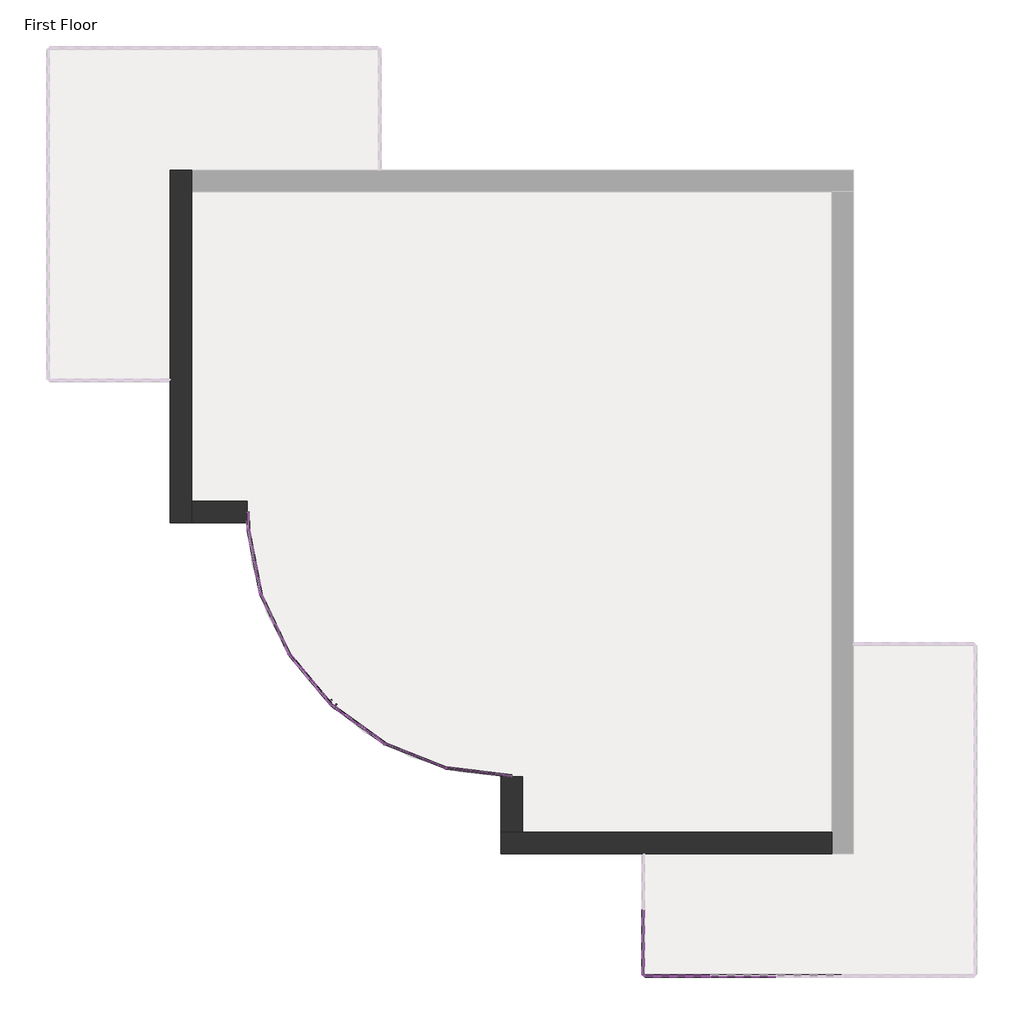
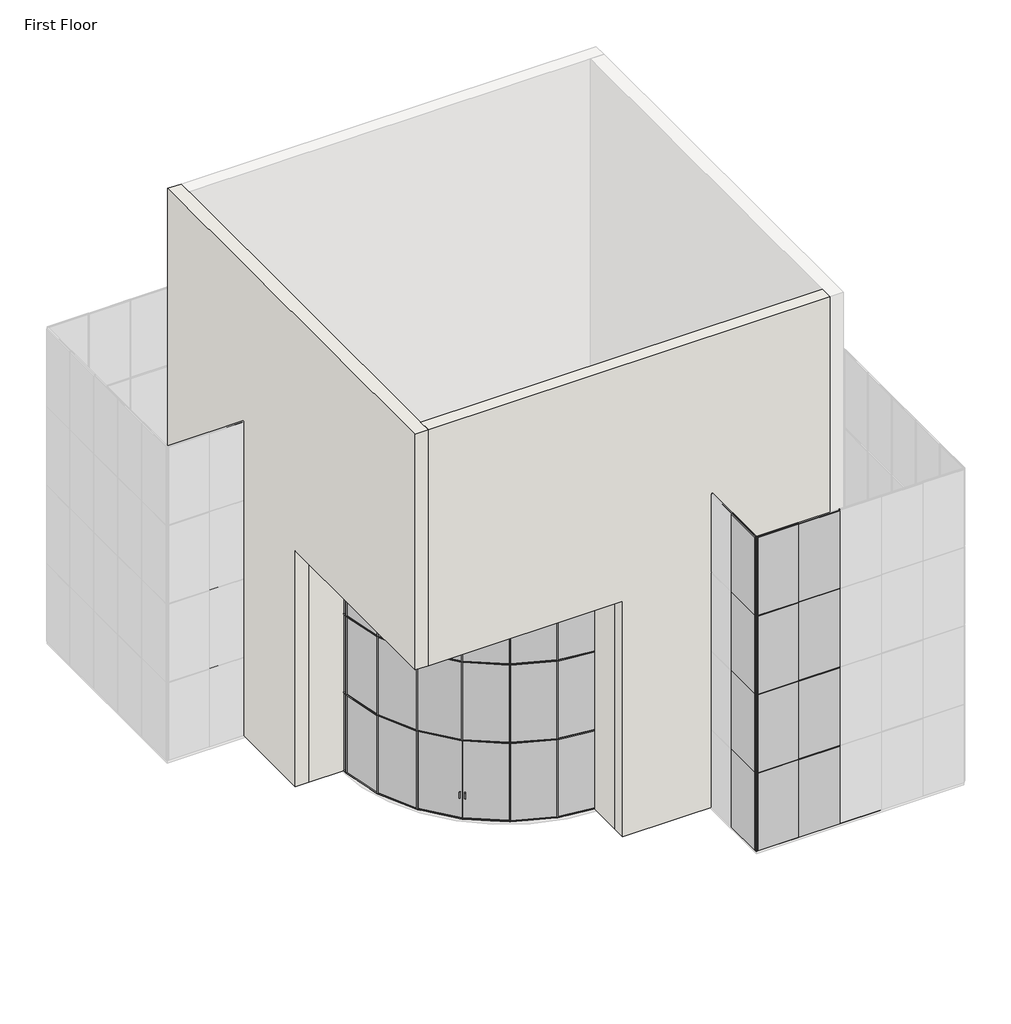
# One storey, part 1 of 4: 72 members, 33 plates, 4 walls.
"""IFC4 building model written with IfcOpenShell, lengths in millimetres."""

from ifc_helpers import new_model, si_unit, origin, origin_with_axes, place, context, project, spatial, polyline, outline, extrude, faceted_brep, transform, mapped, element, save
from components import member_5e617a80, member_74941792, member_cbdb9076, member_7e523723, member_9fd3d903, member_6604d1e0, member_427ea564, member_dc7d8ed0, member_50c0a876, member_f831c101, member_4ce38149, member_fef64646, member_b90b2622, member_80103e86, member_985bfe06, member_dfe62b7a, member_7f371842, curtain_wall_sgl_glass_curtain_wall_sgl_glass_fca7f741, curtain_wall_sgl_glass_curtain_wall_sgl_glass_da5bb70a, system_panel_glazed_9b7d687a, system_panel_glazed_9a901b4a, system_panel_glazed_2d5e1d3d, system_panel_glazed_37964ea6, system_panel_glazed_64ac1428, system_panel_glazed_4997d7a8, system_panel_glazed_95735f45, system_panel_glazed_2762a518, system_panel_glazed_280dc3c4, system_panel_glazed_176abec3, system_panel_glazed_46fdc408

model = new_model("IFC4")

# Units and contexts
model_context = context("Model", 3, world=origin())
ifc_project = project(units=[si_unit("LENGTHUNIT", "METRE", prefix="MILLI")], contexts=[model_context])

# Site, building, storey
site = spatial("IfcSite", under=ifc_project)
building = spatial("IfcBuilding", under=site)
storey = spatial("IfcBuildingStorey", under=building, Name="First Floor", Elevation=0.0)

# Members
placement = place(None, origin())
member_shape = member_5e617a80(model_context)
element("IfcMember", 1, ObjectType="Rectangular Mullion : 1\" Square", at=placement, inside=storey, context=model_context, shape_type="MappedRepresentation", body=[
    mapped(member_shape, transform((2088.1943843, -11353.9860776, 3048.0), x_axis=(0.0, 0.0, 1.0), y_axis=(0.0, -1.0, 0.0), z_axis=(1.0, 0.0, 0.0))),
])
element("IfcMember", 2, ObjectType="Rectangular Mullion : 1\" Square", at=placement, inside=storey, context=model_context, shape_type="MappedRepresentation", body=[
    mapped(member_shape, transform((2088.1943843, -11353.9860776, 6096.0), x_axis=(0.0, 0.0, 1.0), y_axis=(0.0, -1.0, 0.0), z_axis=(1.0, 0.0, 0.0))),
])
element("IfcMember", 3, ObjectType="Rectangular Mullion : 1\" Square", at=placement, inside=storey, context=model_context, shape_type="MappedRepresentation", body=[
    mapped(member_shape, transform((2088.1943843, -11353.9860776, 9144.0), x_axis=(0.0, 0.0, 1.0), y_axis=(0.0, -1.0, 0.0), z_axis=(1.0, 0.0, 0.0))),
])
member_2_shape = member_74941792(model_context)
element("IfcMember", 4, ObjectType="Rectangular Mullion : 1\" Square", at=placement, inside=storey, context=model_context, shape_type="MappedRepresentation", body=[
    mapped(member_2_shape, transform((2088.1943843, -11353.9860776, 12192.0), x_axis=(0.0, 0.0, 1.0), y_axis=(0.0, -1.0, 0.0), z_axis=(1.0, 0.0, 0.0))),
])
member_3_shape = member_cbdb9076(model_context)
element("IfcMember", 5, ObjectType="Rectangular Mullion : 1\" Square", at=placement, inside=storey, context=model_context, shape_type="MappedRepresentation", body=[
    mapped(member_3_shape, transform((576.8943843, -11350.8110776, 3048.0), x_axis=(0.0, -1.0, 0.0), y_axis=(-1.0, 0.0, 0.0), z_axis=(0.0, 0.0, -1.0))),
])
element("IfcMember", 6, ObjectType="Rectangular Mullion : 1\" Square", at=placement, inside=storey, context=model_context, shape_type="MappedRepresentation", body=[
    mapped(member_3_shape, transform((576.8943843, -11350.8110776, 6096.0), x_axis=(0.0, -1.0, 0.0), y_axis=(-1.0, 0.0, 0.0), z_axis=(0.0, 0.0, -1.0))),
])
element("IfcMember", 7, ObjectType="Rectangular Mullion : 1\" Square", at=placement, inside=storey, context=model_context, shape_type="MappedRepresentation", body=[
    mapped(member_3_shape, transform((2100.8943843, -11353.9860776, 3048.0), x_axis=(1.0, 0.0, 0.0), y_axis=(0.0, -1.0, 0.0), z_axis=(0.0, 0.0, -1.0))),
])
element("IfcMember", 8, ObjectType="Rectangular Mullion : 1\" Square", at=placement, inside=storey, context=model_context, shape_type="MappedRepresentation", body=[
    mapped(member_3_shape, transform((2100.8943843, -11353.9860776, 6096.0), x_axis=(1.0, 0.0, 0.0), y_axis=(0.0, -1.0, 0.0), z_axis=(0.0, 0.0, -1.0))),
])
element("IfcMember", 9, ObjectType="Rectangular Mullion : 1\" Square", at=placement, inside=storey, context=model_context, shape_type="MappedRepresentation", body=[
    mapped(member_3_shape, transform((3624.8943843, -11353.9860776, 3048.0), x_axis=(1.0, 0.0, 0.0), y_axis=(0.0, -1.0, 0.0), z_axis=(0.0, 0.0, -1.0))),
])
element("IfcMember", 10, ObjectType="Rectangular Mullion : 1\" Square", at=placement, inside=storey, context=model_context, shape_type="MappedRepresentation", body=[
    mapped(member_3_shape, transform((3624.8943843, -11353.9860776, 6096.0), x_axis=(1.0, 0.0, 0.0), y_axis=(0.0, -1.0, 0.0), z_axis=(0.0, 0.0, -1.0))),
])
element("IfcMember", 11, ObjectType="Rectangular Mullion : 1\" Square", at=placement, inside=storey, context=model_context, shape_type="MappedRepresentation", body=[
    mapped(member_3_shape, transform((-8553.4843812, -1093.2753523, 3048.0), x_axis=(-0.0668125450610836, 0.997765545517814, 0.0), y_axis=(0.9977655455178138, 0.06681254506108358, 0.0), z_axis=(0.0, 0.0, -1.0))),
])
element("IfcMember", 12, ObjectType="Rectangular Mullion : 1\" Square", at=placement, inside=storey, context=model_context, shape_type="MappedRepresentation", body=[
    mapped(member_3_shape, transform((-8262.3863448, -2589.2158368, 3048.0), x_axis=(-0.3122096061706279, 0.9500132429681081, 0.0), y_axis=(0.9500132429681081, 0.3122096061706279, 0.0), z_axis=(0.0, 0.0, -1.0))),
])
element("IfcMember", 13, ObjectType="Rectangular Mullion : 1\" Square", at=placement, inside=storey, context=model_context, shape_type="MappedRepresentation", body=[
    mapped(member_3_shape, transform((-7609.3332629, -3966.2044614, 3048.0), x_axis=(-0.5380935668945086, 0.8428851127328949, 0.0), y_axis=(0.8428851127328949, 0.5380935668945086, 0.0), z_axis=(0.0, 0.0, -1.0))),
])
element("IfcMember", 14, ObjectType="Rectangular Mullion : 1\" Square", at=placement, inside=storey, context=model_context, shape_type="MappedRepresentation", body=[
    mapped(member_3_shape, transform((-5400.6964346, -6031.8923276, 3048.0), x_axis=(-0.8769531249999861, 0.48057592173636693, 0.0), y_axis=(0.48057592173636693, 0.8769531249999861, 0.0), z_axis=(0.0, 0.0, -1.0))),
])
element("IfcMember", 15, ObjectType="Rectangular Mullion : 1\" Square", at=placement, inside=storey, context=model_context, shape_type="MappedRepresentation", body=[
    mapped(member_3_shape, transform((-3983.15249, -6591.4860776, 3048.0), x_axis=(-0.9687499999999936, 0.2480391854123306, 0.0), y_axis=(0.2480391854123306, 0.9687499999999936, 0.0), z_axis=(0.0, 0.0, -1.0))),
])
element("IfcMember", 16, ObjectType="Rectangular Mullion : 1\" Square", at=placement, inside=storey, context=model_context, shape_type="MappedRepresentation", body=[
    mapped(member_3_shape, transform((576.8943843, -11350.8110776, 9144.0), x_axis=(0.0, -1.0, 0.0), y_axis=(-1.0, 0.0, 0.0), z_axis=(0.0, 0.0, -1.0))),
])
element("IfcMember", 17, ObjectType="Rectangular Mullion : 1\" Square", at=placement, inside=storey, context=model_context, shape_type="MappedRepresentation", body=[
    mapped(member_3_shape, transform((2100.8943843, -11353.9860776, 9144.0), x_axis=(1.0, 0.0, 0.0), y_axis=(0.0, -1.0, 0.0), z_axis=(0.0, 0.0, -1.0))),
])
element("IfcMember", 18, ObjectType="Rectangular Mullion : 1\" Square", at=placement, inside=storey, context=model_context, shape_type="MappedRepresentation", body=[
    mapped(member_3_shape, transform((3624.8943843, -11353.9860776, 9144.0), x_axis=(1.0, 0.0, 0.0), y_axis=(0.0, -1.0, 0.0), z_axis=(0.0, 0.0, -1.0))),
])
element("IfcMember", 19, ObjectType="Rectangular Mullion : 1\" Square", at=placement, inside=storey, context=model_context, shape_type="MappedRepresentation", body=[
    mapped(member_3_shape, transform((576.8943843, -11350.8110776, 0.0), x_axis=(0.0, -1.0, 0.0), y_axis=(-1.0, 0.0, 0.0), z_axis=(0.0, 0.0, -1.0))),
])
element("IfcMember", 20, ObjectType="Rectangular Mullion : 1\" Square", at=placement, inside=storey, context=model_context, shape_type="MappedRepresentation", body=[
    mapped(member_3_shape, transform((2100.8943843, -11353.9860776, 0.0), x_axis=(1.0, 0.0, 0.0), y_axis=(0.0, -1.0, 0.0), z_axis=(0.0, 0.0, -1.0))),
])
element("IfcMember", 21, ObjectType="Rectangular Mullion : 1\" Square", at=placement, inside=storey, context=model_context, shape_type="MappedRepresentation", body=[
    mapped(member_3_shape, transform((3624.8943843, -11353.9860776, 0.0), x_axis=(1.0, 0.0, 0.0), y_axis=(0.0, -1.0, 0.0), z_axis=(0.0, 0.0, -1.0))),
])
element("IfcMember", 22, ObjectType="Rectangular Mullion : 1\" Square", at=placement, inside=storey, context=model_context, shape_type="MappedRepresentation", body=[
    mapped(member_3_shape, transform((-8553.4843812, -1093.2753523, 0.0), x_axis=(-0.06681254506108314, 0.9977655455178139, 0.0), y_axis=(0.9977655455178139, 0.06681254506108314, 0.0), z_axis=(0.0, 0.0, -1.0))),
])
element("IfcMember", 23, ObjectType="Rectangular Mullion : 1\" Square", at=placement, inside=storey, context=model_context, shape_type="MappedRepresentation", body=[
    mapped(member_3_shape, transform((-8262.3863448, -2589.2158368, 0.0), x_axis=(-0.3122096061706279, 0.9500132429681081, 0.0), y_axis=(0.9500132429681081, 0.3122096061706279, 0.0), z_axis=(0.0, 0.0, -1.0))),
])
element("IfcMember", 24, ObjectType="Rectangular Mullion : 1\" Square", at=placement, inside=storey, context=model_context, shape_type="MappedRepresentation", body=[
    mapped(member_3_shape, transform((-7609.3332629, -3966.2044614, 0.0), x_axis=(-0.5380935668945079, 0.8428851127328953, 0.0), y_axis=(0.8428851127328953, 0.5380935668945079, 0.0), z_axis=(0.0, 0.0, -1.0))),
])
element("IfcMember", 25, ObjectType="Rectangular Mullion : 1\" Square", at=placement, inside=storey, context=model_context, shape_type="MappedRepresentation", body=[
    mapped(member_3_shape, transform((-5400.6964346, -6031.8923276, 0.0), x_axis=(-0.8769531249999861, 0.48057592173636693, 0.0), y_axis=(0.48057592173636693, 0.8769531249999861, 0.0), z_axis=(0.0, 0.0, -1.0))),
])
element("IfcMember", 26, ObjectType="Rectangular Mullion : 1\" Square", at=placement, inside=storey, context=model_context, shape_type="MappedRepresentation", body=[
    mapped(member_3_shape, transform((-3983.15249, -6591.4860776, 0.0), x_axis=(-0.9687499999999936, 0.2480391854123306, 0.0), y_axis=(0.2480391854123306, 0.9687499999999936, 0.0), z_axis=(0.0, 0.0, -1.0))),
])
element("IfcMember", 27, ObjectType="Rectangular Mullion : 1\" Square", at=placement, inside=storey, context=model_context, shape_type="MappedRepresentation", body=[
    mapped(member_2_shape, transform((602.2943843, -11353.9860776, 0.0), x_axis=(0.0, 0.0, -1.0), y_axis=(0.0, -1.0, 0.0), z_axis=(-1.0, 0.0, 0.0))),
])
member_4_shape = member_7e523723(model_context)
element("IfcMember", 28, ObjectType="Rectangular Mullion : 1\" Square", at=placement, inside=storey, context=model_context, shape_type="MappedRepresentation", body=[
    mapped(member_4_shape, transform((576.8943843, -11353.9860776, 12192.0), x_axis=(-1.0, 0.0, 0.0), y_axis=(0.0, -1.0, 0.0), z_axis=(0.0, 0.0, 1.0))),
])
element("IfcMember", 29, ObjectType="Rectangular Mullion : 1\" Square", at=placement, inside=storey, context=model_context, shape_type="MappedRepresentation", body=[
    mapped(member_4_shape, transform((576.8943843, -11353.9860776, 3048.0), x_axis=(-1.0, 0.0, 0.0), y_axis=(0.0, -1.0, 0.0), z_axis=(0.0, 0.0, 1.0))),
])
element("IfcMember", 30, ObjectType="Rectangular Mullion : 1\" Square", at=placement, inside=storey, context=model_context, shape_type="MappedRepresentation", body=[
    mapped(member_4_shape, transform((576.8943843, -11353.9860776, 6096.0), x_axis=(-1.0, 0.0, 0.0), y_axis=(0.0, -1.0, 0.0), z_axis=(0.0, 0.0, 1.0))),
])
element("IfcMember", 31, ObjectType="Rectangular Mullion : 1\" Square", at=placement, inside=storey, context=model_context, shape_type="MappedRepresentation", body=[
    mapped(member_4_shape, transform((576.8943843, -11353.9860776, 9144.0), x_axis=(-1.0, 0.0, 0.0), y_axis=(0.0, -1.0, 0.0), z_axis=(0.0, 0.0, 1.0))),
])
member_5_shape = member_9fd3d903(model_context)
element("IfcMember", 32, ObjectType="Rectangular Mullion : 1\" Square", at=placement, inside=storey, context=model_context, shape_type="MappedRepresentation", body=[
    mapped(member_5_shape, transform((576.8943843, -11338.1110776, 3048.0), x_axis=(0.0, 0.0, 1.0), y_axis=(-1.0, 0.0, 0.0), z_axis=(0.0, -1.0, 0.0))),
])
element("IfcMember", 33, ObjectType="Rectangular Mullion : 1\" Square", at=placement, inside=storey, context=model_context, shape_type="MappedRepresentation", body=[
    mapped(member_5_shape, transform((576.8943843, -11338.1110776, 6096.0), x_axis=(0.0, 0.0, 1.0), y_axis=(-1.0, 0.0, 0.0), z_axis=(0.0, -1.0, 0.0))),
])
element("IfcMember", 34, ObjectType="Rectangular Mullion : 1\" Square", at=placement, inside=storey, context=model_context, shape_type="MappedRepresentation", body=[
    mapped(member_5_shape, transform((576.8943843, -11338.1110776, 9144.0), x_axis=(0.0, 0.0, 1.0), y_axis=(-1.0, 0.0, 0.0), z_axis=(0.0, -1.0, 0.0))),
])
element("IfcMember", 35, ObjectType="Rectangular Mullion : 1\" Square", at=placement, inside=storey, context=model_context, shape_type="MappedRepresentation", body=[
    mapped(member_5_shape, transform((3612.1943843, -11353.9860776, 3048.0), x_axis=(0.0, 0.0, 1.0), y_axis=(0.0, -1.0, 0.0), z_axis=(1.0, 0.0, 0.0))),
])
element("IfcMember", 36, ObjectType="Rectangular Mullion : 1\" Square", at=placement, inside=storey, context=model_context, shape_type="MappedRepresentation", body=[
    mapped(member_5_shape, transform((3612.1943843, -11353.9860776, 6096.0), x_axis=(0.0, 0.0, 1.0), y_axis=(0.0, -1.0, 0.0), z_axis=(1.0, 0.0, 0.0))),
])
element("IfcMember", 37, ObjectType="Rectangular Mullion : 1\" Square", at=placement, inside=storey, context=model_context, shape_type="MappedRepresentation", body=[
    mapped(member_5_shape, transform((3612.1943843, -11353.9860776, 9144.0), x_axis=(0.0, 0.0, 1.0), y_axis=(0.0, -1.0, 0.0), z_axis=(1.0, 0.0, 0.0))),
])
member_6_shape = member_6604d1e0(model_context)
element("IfcMember", 38, ObjectType="Rectangular Mullion : 1\" Square", at=placement, inside=storey, context=model_context, shape_type="MappedRepresentation", body=[
    mapped(member_6_shape, transform((576.8943843, -11338.1110776, 12192.0), x_axis=(0.0, 0.0, 1.0), y_axis=(-1.0, 0.0, 0.0), z_axis=(0.0, -1.0, 0.0))),
])
element("IfcMember", 39, ObjectType="Rectangular Mullion : 1\" Square", at=placement, inside=storey, context=model_context, shape_type="MappedRepresentation", body=[
    mapped(member_6_shape, transform((2113.5943843, -11353.9860776, 0.0), x_axis=(0.0, 0.0, -1.0), y_axis=(0.0, -1.0, 0.0), z_axis=(-1.0, 0.0, 0.0))),
])
element("IfcMember", 40, ObjectType="Rectangular Mullion : 1\" Square", at=placement, inside=storey, context=model_context, shape_type="MappedRepresentation", body=[
    mapped(member_6_shape, transform((3637.5943843, -11353.9860776, 0.0), x_axis=(0.0, 0.0, -1.0), y_axis=(0.0, -1.0, 0.0), z_axis=(-1.0, 0.0, 0.0))),
])
element("IfcMember", 41, ObjectType="Rectangular Mullion : 1\" Square", at=placement, inside=storey, context=model_context, shape_type="MappedRepresentation", body=[
    mapped(member_4_shape, transform((576.8943843, -11353.9860776, 3048.0), x_axis=(0.0, -1.0, 0.0), y_axis=(-1.0, 0.0, 0.0), z_axis=(0.0, 0.0, -1.0))),
])
element("IfcMember", 42, ObjectType="Rectangular Mullion : 1\" Square", at=placement, inside=storey, context=model_context, shape_type="MappedRepresentation", body=[
    mapped(member_4_shape, transform((576.8943843, -11353.9860776, 6096.0), x_axis=(0.0, -1.0, 0.0), y_axis=(-1.0, 0.0, 0.0), z_axis=(0.0, 0.0, -1.0))),
])
element("IfcMember", 43, ObjectType="Rectangular Mullion : 1\" Square", at=placement, inside=storey, context=model_context, shape_type="MappedRepresentation", body=[
    mapped(member_4_shape, transform((576.8943843, -11353.9860776, 9144.0), x_axis=(0.0, -1.0, 0.0), y_axis=(-1.0, 0.0, 0.0), z_axis=(0.0, 0.0, -1.0))),
])
element("IfcMember", 44, ObjectType="Rectangular Mullion : 1\" Square", at=placement, inside=storey, context=model_context, shape_type="MappedRepresentation", body=[
    mapped(member_4_shape, transform((576.8943843, -11353.9860776, 0.0), x_axis=(0.0, -1.0, 0.0), y_axis=(-1.0, 0.0, 0.0), z_axis=(0.0, 0.0, -1.0))),
])
member_7_shape = member_427ea564(model_context)
element("IfcMember", 45, ObjectType="Rectangular Mullion : 1\" Square", at=placement, inside=storey, context=model_context, shape_type="MappedRepresentation", body=[
    mapped(member_7_shape, transform((-7614.7753719, -3954.7295562, 0.0), x_axis=(0.0, 0.0, -1.0), y_axis=(0.9035358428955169, 0.4285125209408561, 0.0), z_axis=(0.42851252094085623, -0.9035358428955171, 0.0))),
])
element("IfcMember", 46, ObjectType="Rectangular Mullion : 1\" Square", at=placement, inside=storey, context=model_context, shape_type="MappedRepresentation", body=[
    mapped(member_7_shape, transform((-3994.9653562, -6586.8227963, 0.0), x_axis=(0.0, 0.0, -1.0), y_axis=(0.36718750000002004, 0.9301469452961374, 0.0), z_axis=(0.9301469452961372, -0.36718750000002, 0.0))),
])
element("IfcMember", 47, ObjectType="Rectangular Mullion : 1\" Square", at=placement, inside=storey, context=model_context, shape_type="MappedRepresentation", body=[
    mapped(member_7_shape, transform((-8264.8121618, -2576.7496661, 0.0), x_axis=(0.0, 0.0, -1.0), y_axis=(0.9815882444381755, 0.1910092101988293, 0.0), z_axis=(0.1910092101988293, -0.9815882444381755, 0.0))),
])
member_8_shape = member_dc7d8ed0(model_context)
element("IfcMember", 48, ObjectType="Rectangular Mullion : 1\" Square", at=placement, inside=storey, context=model_context, shape_type="MappedRepresentation", body=[
    mapped(member_8_shape, transform((-6635.1409531, -5138.1794369, 0.0), x_axis=(0.0, 0.0, -1.0), y_axis=(0.7690124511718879, 0.6392337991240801, 0.0), z_axis=(0.6392337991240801, -0.7690124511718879, 0.0))),
])
member_9_shape = member_50c0a876(model_context)
element("IfcMember", 49, ObjectType="Rectangular Mullion : 1\" Square", at=placement, inside=storey, context=model_context, shape_type="MappedRepresentation", body=[
    mapped(member_9_shape, transform((-5410.9834723, -6024.4447202, 0.0), x_axis=(0.0, 0.0, -1.0), y_axis=(0.5864257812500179, 0.8100029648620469, 0.0), z_axis=(0.8100029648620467, -0.5864257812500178, 0.0))),
])
member_10_shape = member_f831c101(model_context)
element("IfcMember", 50, ObjectType="Rectangular Mullion : 1\" Square", at=placement, inside=storey, context=model_context, shape_type="MappedRepresentation", body=[
    mapped(member_10_shape, transform((-2471.1056157, -6781.9860776, 0.0), x_axis=(0.0, 0.0, -1.0), y_axis=(0.12500000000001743, 0.9921567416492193, 0.0), z_axis=(0.9921567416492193, -0.12500000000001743, 0.0))),
])
member_11_shape = member_4ce38149(model_context)
element("IfcMember", 51, ObjectType="Rectangular Mullion : 1\" Square", at=placement, inside=storey, context=model_context, shape_type="MappedRepresentation", body=[
    mapped(member_11_shape, transform((-8553.908878, -1080.5824486, 0.0), x_axis=(0.0, 0.0, -1.0), y_axis=(0.9994412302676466, 0.033424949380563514, 0.0), z_axis=(0.03342494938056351, -0.9994412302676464, 0.0))),
])
member_12_shape = member_fef64646(model_context)
element("IfcMember", 52, ObjectType="Rectangular Mullion : 1\" Square", at=placement, inside=storey, context=model_context, shape_type="MappedRepresentation", body=[
    mapped(member_12_shape, transform((-3970.5520994, -6593.0735776, 3048.0), x_axis=(0.0, 0.0, 1.0), y_axis=(0.12500000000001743, 0.9921567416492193, 0.0), z_axis=(-0.9921567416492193, 0.12500000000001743, 0.0))),
])
element("IfcMember", 53, ObjectType="Rectangular Mullion : 1\" Square", at=placement, inside=storey, context=model_context, shape_type="MappedRepresentation", body=[
    mapped(member_12_shape, transform((-3970.5520994, -6593.0735776, 6096.0), x_axis=(0.0, 0.0, 1.0), y_axis=(0.12500000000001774, 0.9921567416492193, 0.0), z_axis=(-0.9921567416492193, 0.12500000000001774, 0.0))),
])
member_13_shape = member_b90b2622(model_context)
element("IfcMember", 54, ObjectType="Rectangular Mullion : 1\" Square", at=placement, inside=storey, context=model_context, shape_type="MappedRepresentation", body=[
    mapped(member_13_shape, transform((-5388.8835684, -6036.5556088, 3048.0), x_axis=(0.0, 0.0, 1.0), y_axis=(0.36718750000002, 0.9301469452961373, 0.0), z_axis=(-0.9301469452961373, 0.36718750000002, 0.0))),
])
element("IfcMember", 55, ObjectType="Rectangular Mullion : 1\" Square", at=placement, inside=storey, context=model_context, shape_type="MappedRepresentation", body=[
    mapped(member_13_shape, transform((-8256.9442358, -2600.690742, 3048.0), x_axis=(0.0, 0.0, 1.0), y_axis=(0.9035358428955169, 0.42851252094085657, 0.0), z_axis=(-0.42851252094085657, 0.9035358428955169, 0.0))),
])
element("IfcMember", 56, ObjectType="Rectangular Mullion : 1\" Square", at=placement, inside=storey, context=model_context, shape_type="MappedRepresentation", body=[
    mapped(member_13_shape, transform((-8551.0585642, -1105.741523, 3048.0), x_axis=(0.0, 0.0, 1.0), y_axis=(0.9815882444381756, 0.19100921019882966, 0.0), z_axis=(-0.1910092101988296, 0.9815882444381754, 0.0))),
])
element("IfcMember", 57, ObjectType="Rectangular Mullion : 1\" Square", at=placement, inside=storey, context=model_context, shape_type="MappedRepresentation", body=[
    mapped(member_13_shape, transform((-8256.9442358, -2600.690742, 6096.0), x_axis=(0.0, 0.0, 1.0), y_axis=(0.9035358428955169, 0.4285125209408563, 0.0), z_axis=(-0.4285125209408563, 0.9035358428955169, 0.0))),
])
element("IfcMember", 58, ObjectType="Rectangular Mullion : 1\" Square", at=placement, inside=storey, context=model_context, shape_type="MappedRepresentation", body=[
    mapped(member_13_shape, transform((-8551.0585642, -1105.741523, 6096.0), x_axis=(0.0, 0.0, 1.0), y_axis=(0.9815882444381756, 0.19100921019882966, 0.0), z_axis=(-0.1910092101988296, 0.9815882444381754, 0.0))),
])
element("IfcMember", 59, ObjectType="Rectangular Mullion : 1\" Square", at=placement, inside=storey, context=model_context, shape_type="MappedRepresentation", body=[
    mapped(member_13_shape, transform((-5388.8835684, -6036.5556088, 6096.0), x_axis=(0.0, 0.0, 1.0), y_axis=(0.36718750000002, 0.9301469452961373, 0.0), z_axis=(-0.9301469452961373, 0.36718750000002, 0.0))),
])
member_14_shape = member_80103e86(model_context)
element("IfcMember", 60, ObjectType="Rectangular Mullion : 1\" Square", at=placement, inside=storey, context=model_context, shape_type="MappedRepresentation", body=[
    mapped(member_14_shape, transform((-8567.1056157, -685.9860776, 3048.0), x_axis=(0.0, 0.0, 1.0), y_axis=(0.9994412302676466, 0.03342494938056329, 0.0), z_axis=(-0.033424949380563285, 0.9994412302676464, 0.0))),
])
element("IfcMember", 61, ObjectType="Rectangular Mullion : 1\" Square", at=placement, inside=storey, context=model_context, shape_type="MappedRepresentation", body=[
    mapped(member_14_shape, transform((-8567.1056157, -685.9860776, 6096.0), x_axis=(0.0, 0.0, 1.0), y_axis=(0.9994412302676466, 0.03342494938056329, 0.0), z_axis=(-0.033424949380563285, 0.9994412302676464, 0.0))),
])
element("IfcMember", 62, ObjectType="Rectangular Mullion : 1\" Square", at=placement, inside=storey, context=model_context, shape_type="MappedRepresentation", body=[
    mapped(member_3_shape, transform((-8553.4843812, -1093.2753523, 6096.0), x_axis=(-0.0668125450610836, 0.997765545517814, 0.0), y_axis=(0.9977655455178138, 0.06681254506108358, 0.0), z_axis=(0.0, 0.0, -1.0))),
])
element("IfcMember", 63, ObjectType="Rectangular Mullion : 1\" Square", at=placement, inside=storey, context=model_context, shape_type="MappedRepresentation", body=[
    mapped(member_3_shape, transform((-8262.3863448, -2589.2158368, 6096.0), x_axis=(-0.3122096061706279, 0.9500132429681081, 0.0), y_axis=(0.9500132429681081, 0.3122096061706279, 0.0), z_axis=(0.0, 0.0, -1.0))),
])
element("IfcMember", 64, ObjectType="Rectangular Mullion : 1\" Square", at=placement, inside=storey, context=model_context, shape_type="MappedRepresentation", body=[
    mapped(member_3_shape, transform((-7609.3332629, -3966.2044614, 6096.0), x_axis=(-0.5380935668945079, 0.8428851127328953, 0.0), y_axis=(0.8428851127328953, 0.5380935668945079, 0.0), z_axis=(0.0, 0.0, -1.0))),
])
element("IfcMember", 65, ObjectType="Rectangular Mullion : 1\" Square", at=placement, inside=storey, context=model_context, shape_type="MappedRepresentation", body=[
    mapped(member_3_shape, transform((-5400.6964346, -6031.8923276, 6096.0), x_axis=(-0.8769531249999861, 0.48057592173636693, 0.0), y_axis=(0.48057592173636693, 0.8769531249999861, 0.0), z_axis=(0.0, 0.0, -1.0))),
])
element("IfcMember", 66, ObjectType="Rectangular Mullion : 1\" Square", at=placement, inside=storey, context=model_context, shape_type="MappedRepresentation", body=[
    mapped(member_3_shape, transform((-3983.15249, -6591.4860776, 6096.0), x_axis=(-0.9687499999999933, 0.24803918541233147, 0.0), y_axis=(0.24803918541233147, 0.9687499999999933, 0.0), z_axis=(0.0, 0.0, -1.0))),
])
element("IfcMember", 67, ObjectType="Rectangular Mullion : 1\" Square", at=placement, inside=storey, context=model_context, shape_type="MappedRepresentation", body=[
    mapped(member_3_shape, transform((-6635.1409531, -5138.1794369, 6096.0), x_axis=(-0.7303466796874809, 0.6830766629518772, 0.0), y_axis=(0.6830766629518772, 0.7303466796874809, 0.0), z_axis=(0.0, 0.0, -1.0))),
])
element("IfcMember", 68, ObjectType="Rectangular Mullion : 1\" Square", at=placement, inside=storey, context=model_context, shape_type="MappedRepresentation", body=[
    mapped(member_13_shape, transform((-6624.8539154, -5145.6270444, 6096.0), x_axis=(0.0, 0.0, 1.0), y_axis=(0.586425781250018, 0.8100029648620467, 0.0), z_axis=(-0.8100029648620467, 0.586425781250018, 0.0))),
])
element("IfcMember", 69, ObjectType="Rectangular Mullion : 1\" Square", at=placement, inside=storey, context=model_context, shape_type="MappedRepresentation", body=[
    mapped(member_13_shape, transform((-7601.2149937, -3975.9709195, 6096.0), x_axis=(0.0, 0.0, 1.0), y_axis=(0.7690124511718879, 0.6392337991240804, 0.0), z_axis=(-0.6392337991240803, 0.7690124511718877, 0.0))),
])
member_15_shape = member_985bfe06(model_context)
element("IfcMember", 70, ObjectType="Rectangular Mullion : 1\" Square", at=placement, inside=storey, context=model_context, shape_type="MappedRepresentation", body=[
    mapped(member_15_shape, transform((-6635.1409531, -5138.1794369, 3035.3), x_axis=(-0.7303466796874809, 0.6830766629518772, 0.0), y_axis=(0.6830766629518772, 0.7303466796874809, 0.0), z_axis=(0.0, 0.0, -1.0))),
])
member_16_shape = member_dfe62b7a(model_context)
element("IfcMember", 71, ObjectType="Rectangular Mullion : 1\" Square", at=placement, inside=storey, context=model_context, shape_type="MappedRepresentation", body=[
    mapped(member_16_shape, transform((-6624.8539154, -5145.6270444, 3048.0), x_axis=(0.0, 0.0, 1.0), y_axis=(0.586425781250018, 0.8100029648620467, 0.0), z_axis=(-0.8100029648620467, 0.586425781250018, 0.0))),
])
member_17_shape = member_7f371842(model_context)
element("IfcMember", 72, ObjectType="Rectangular Mullion : 1\" Square", at=placement, inside=storey, context=model_context, shape_type="MappedRepresentation", body=[
    mapped(member_17_shape, transform((-7601.2149937, -3975.9709195, 3048.0), x_axis=(0.0, 0.0, 1.0), y_axis=(0.7690124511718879, 0.6392337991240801, 0.0), z_axis=(-0.6392337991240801, 0.7690124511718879, 0.0))),
])

# Plates
curtain_wall_sgl_glass_curtain_wall_sgl_glass_shape = curtain_wall_sgl_glass_curtain_wall_sgl_glass_fca7f741(model_context)
element("IfcPlate", 73, ObjectType="Curtain Wall Sgl Glass : Curtain Wall Sgl Glass", at=placement, inside=storey, context=model_context, shape_type="MappedRepresentation", body=[
    mapped(curtain_wall_sgl_glass_curtain_wall_sgl_glass_shape, transform((-6023.0622127, -5581.3120786, 25.4), x_axis=(0.8100029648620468, -0.5864257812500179, 0.0), y_axis=(0.5864257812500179, 0.8100029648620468, 0.0), z_axis=(0.0, 0.0, 1.0))),
])
curtain_wall_sgl_glass_curtain_wall_sgl_glass_2_shape = curtain_wall_sgl_glass_curtain_wall_sgl_glass_da5bb70a(model_context)
element("IfcPlate", 74, ObjectType="Curtain Wall Sgl Glass : Curtain Wall Sgl Glass", at=placement, inside=storey, context=model_context, shape_type="MappedRepresentation", body=[
    mapped(curtain_wall_sgl_glass_curtain_wall_sgl_glass_2_shape, transform((-7118.1779734, -4557.0751782, 25.4), x_axis=(-0.6392337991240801, 0.7690124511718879, 0.0), y_axis=(-0.7690124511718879, -0.6392337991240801, 0.0), z_axis=(0.0, 0.0, 1.0))),
])
system_panel_glazed_shape = system_panel_glazed_9b7d687a(model_context)
element("IfcPlate", 75, ObjectType="System Panel : Glazed", at=placement, inside=storey, context=model_context, shape_type="MappedRepresentation", body=[
    mapped(system_panel_glazed_shape, transform((1345.2443843, -11353.9860776, 25.4), x_axis=(1.0, 0.0, 0.0), y_axis=(0.0, 1.0, 0.0), z_axis=(0.0, 0.0, 1.0))),
])
element("IfcPlate", 76, ObjectType="System Panel : Glazed", at=placement, inside=storey, context=model_context, shape_type="MappedRepresentation", body=[
    mapped(system_panel_glazed_shape, transform((1345.2443843, -11353.9860776, 9156.7), x_axis=(1.0, 0.0, 0.0), y_axis=(0.0, 1.0, 0.0), z_axis=(0.0, 0.0, 1.0))),
])
system_panel_glazed_2_shape = system_panel_glazed_9a901b4a(model_context)
element("IfcPlate", 77, ObjectType="System Panel : Glazed", at=placement, inside=storey, context=model_context, shape_type="MappedRepresentation", body=[
    mapped(system_panel_glazed_2_shape, transform((1345.2443843, -11353.9860776, 3060.7), x_axis=(1.0, 0.0, 0.0), y_axis=(0.0, 1.0, 0.0), z_axis=(0.0, 0.0, 1.0))),
])
element("IfcPlate", 78, ObjectType="System Panel : Glazed", at=placement, inside=storey, context=model_context, shape_type="MappedRepresentation", body=[
    mapped(system_panel_glazed_2_shape, transform((1345.2443843, -11353.9860776, 6108.7), x_axis=(1.0, 0.0, 0.0), y_axis=(0.0, 1.0, 0.0), z_axis=(0.0, 0.0, 1.0))),
])
system_panel_glazed_3_shape = system_panel_glazed_2d5e1d3d(model_context)
element("IfcPlate", 79, ObjectType="System Panel : Glazed", at=placement, inside=storey, context=model_context, shape_type="MappedRepresentation", body=[
    mapped(system_panel_glazed_3_shape, transform((2862.8943843, -11353.9860776, 25.4), x_axis=(1.0, 0.0, 0.0), y_axis=(0.0, 1.0, 0.0), z_axis=(0.0, 0.0, 1.0))),
])
element("IfcPlate", 80, ObjectType="System Panel : Glazed", at=placement, inside=storey, context=model_context, shape_type="MappedRepresentation", body=[
    mapped(system_panel_glazed_3_shape, transform((2862.8943843, -11353.9860776, 9156.7), x_axis=(1.0, 0.0, 0.0), y_axis=(0.0, 1.0, 0.0), z_axis=(0.0, 0.0, 1.0))),
])
element("IfcPlate", 81, ObjectType="System Panel : Glazed", at=placement, inside=storey, context=model_context, shape_type="MappedRepresentation", body=[
    mapped(system_panel_glazed_3_shape, transform((576.8943843, -10588.8110776, 25.4), x_axis=(0.0, -1.0, 0.0), y_axis=(1.0, 0.0, 0.0), z_axis=(0.0, 0.0, 1.0))),
])
element("IfcPlate", 82, ObjectType="System Panel : Glazed", at=placement, inside=storey, context=model_context, shape_type="MappedRepresentation", body=[
    mapped(system_panel_glazed_3_shape, transform((576.8943843, -10588.8110776, 9156.7), x_axis=(0.0, -1.0, 0.0), y_axis=(1.0, 0.0, 0.0), z_axis=(0.0, 0.0, 1.0))),
])
element("IfcPlate", 83, ObjectType="System Panel : Glazed", at=placement, inside=storey, context=model_context, shape_type="MappedRepresentation", body=[
    mapped(system_panel_glazed_3_shape, transform((-4691.9244623, -6311.6892026, 25.4), x_axis=(-0.9301469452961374, 0.3671875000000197, 0.0), y_axis=(-0.3671875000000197, -0.9301469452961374, 0.0), z_axis=(0.0, 0.0, 1.0))),
])
element("IfcPlate", 84, ObjectType="System Panel : Glazed", at=placement, inside=storey, context=model_context, shape_type="MappedRepresentation", body=[
    mapped(system_panel_glazed_3_shape, transform((-7935.8598039, -3277.7101491, 25.4), x_axis=(-0.4285125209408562, 0.9035358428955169, 0.0), y_axis=(-0.9035358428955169, -0.4285125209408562, 0.0), z_axis=(0.0, 0.0, 1.0))),
])
element("IfcPlate", 85, ObjectType="System Panel : Glazed", at=placement, inside=storey, context=model_context, shape_type="MappedRepresentation", body=[
    mapped(system_panel_glazed_3_shape, transform((-8407.935363, -1841.2455945, 25.4), x_axis=(-0.19100921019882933, 0.9815882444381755, 0.0), y_axis=(-0.9815882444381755, -0.19100921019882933, 0.0), z_axis=(0.0, 0.0, 1.0))),
])
system_panel_glazed_4_shape = system_panel_glazed_37964ea6(model_context)
element("IfcPlate", 86, ObjectType="System Panel : Glazed", at=placement, inside=storey, context=model_context, shape_type="MappedRepresentation", body=[
    mapped(system_panel_glazed_4_shape, transform((2862.8943843, -11353.9860776, 3060.7), x_axis=(1.0, 0.0, 0.0), y_axis=(0.0, 1.0, 0.0), z_axis=(0.0, 0.0, 1.0))),
])
element("IfcPlate", 87, ObjectType="System Panel : Glazed", at=placement, inside=storey, context=model_context, shape_type="MappedRepresentation", body=[
    mapped(system_panel_glazed_4_shape, transform((2862.8943843, -11353.9860776, 6108.7), x_axis=(1.0, 0.0, 0.0), y_axis=(0.0, 1.0, 0.0), z_axis=(0.0, 0.0, 1.0))),
])
element("IfcPlate", 88, ObjectType="System Panel : Glazed", at=placement, inside=storey, context=model_context, shape_type="MappedRepresentation", body=[
    mapped(system_panel_glazed_4_shape, transform((576.8943843, -10588.8110776, 3060.7), x_axis=(0.0, -1.0, 0.0), y_axis=(1.0, 0.0, 0.0), z_axis=(0.0, 0.0, 1.0))),
])
element("IfcPlate", 89, ObjectType="System Panel : Glazed", at=placement, inside=storey, context=model_context, shape_type="MappedRepresentation", body=[
    mapped(system_panel_glazed_4_shape, transform((576.8943843, -10588.8110776, 6108.7), x_axis=(0.0, -1.0, 0.0), y_axis=(1.0, 0.0, 0.0), z_axis=(0.0, 0.0, 1.0))),
])
element("IfcPlate", 90, ObjectType="System Panel : Glazed", at=placement, inside=storey, context=model_context, shape_type="MappedRepresentation", body=[
    mapped(system_panel_glazed_4_shape, transform((-4691.9244623, -6311.6892026, 3060.7), x_axis=(-0.9301469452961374, 0.3671875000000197, 0.0), y_axis=(-0.3671875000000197, -0.9301469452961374, 0.0), z_axis=(0.0, 0.0, 1.0))),
])
element("IfcPlate", 91, ObjectType="System Panel : Glazed", at=placement, inside=storey, context=model_context, shape_type="MappedRepresentation", body=[
    mapped(system_panel_glazed_4_shape, transform((-6017.9186938, -5585.0358823, 3060.7), x_axis=(-0.8100029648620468, 0.5864257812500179, 0.0), y_axis=(-0.5864257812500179, -0.8100029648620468, 0.0), z_axis=(0.0, 0.0, 1.0))),
])
element("IfcPlate", 92, ObjectType="System Panel : Glazed", at=placement, inside=storey, context=model_context, shape_type="MappedRepresentation", body=[
    mapped(system_panel_glazed_4_shape, transform((-7122.237108, -4552.1919492, 3060.7), x_axis=(-0.6392337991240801, 0.7690124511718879, 0.0), y_axis=(-0.7690124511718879, -0.6392337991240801, 0.0), z_axis=(0.0, 0.0, 1.0))),
])
element("IfcPlate", 93, ObjectType="System Panel : Glazed", at=placement, inside=storey, context=model_context, shape_type="MappedRepresentation", body=[
    mapped(system_panel_glazed_4_shape, transform((-7935.8598039, -3277.7101491, 3060.7), x_axis=(-0.4285125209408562, 0.9035358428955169, 0.0), y_axis=(-0.9035358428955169, -0.4285125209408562, 0.0), z_axis=(0.0, 0.0, 1.0))),
])
element("IfcPlate", 94, ObjectType="System Panel : Glazed", at=placement, inside=storey, context=model_context, shape_type="MappedRepresentation", body=[
    mapped(system_panel_glazed_4_shape, transform((-8407.935363, -1841.2455945, 3060.7), x_axis=(-0.19100921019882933, 0.9815882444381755, 0.0), y_axis=(-0.9815882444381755, -0.19100921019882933, 0.0), z_axis=(0.0, 0.0, 1.0))),
])
system_panel_glazed_5_shape = system_panel_glazed_64ac1428(model_context)
element("IfcPlate", 95, ObjectType="System Panel : Glazed", at=placement, inside=storey, context=model_context, shape_type="MappedRepresentation", body=[
    mapped(system_panel_glazed_5_shape, transform((-3220.8288575, -6687.5298276, 25.4), x_axis=(-0.9921567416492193, 0.1250000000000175, 0.0), y_axis=(-0.1250000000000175, -0.9921567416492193, 0.0), z_axis=(0.0, 0.0, 1.0))),
])
system_panel_glazed_6_shape = system_panel_glazed_4997d7a8(model_context)
element("IfcPlate", 96, ObjectType="System Panel : Glazed", at=placement, inside=storey, context=model_context, shape_type="MappedRepresentation", body=[
    mapped(system_panel_glazed_6_shape, transform((-8560.5072469, -883.2842631, 25.4), x_axis=(-0.03342494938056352, 0.9994412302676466, 0.0), y_axis=(-0.9994412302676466, -0.03342494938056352, 0.0), z_axis=(0.0, 0.0, 1.0))),
])
system_panel_glazed_7_shape = system_panel_glazed_95735f45(model_context)
element("IfcPlate", 97, ObjectType="System Panel : Glazed", at=placement, inside=storey, context=model_context, shape_type="MappedRepresentation", body=[
    mapped(system_panel_glazed_7_shape, transform((-3220.8288575, -6687.5298276, 6108.7), x_axis=(-0.9921567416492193, 0.1250000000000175, 0.0), y_axis=(-0.1250000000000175, -0.9921567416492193, 0.0), z_axis=(0.0, 0.0, 1.0))),
])
system_panel_glazed_8_shape = system_panel_glazed_2762a518(model_context)
element("IfcPlate", 98, ObjectType="System Panel : Glazed", at=placement, inside=storey, context=model_context, shape_type="MappedRepresentation", body=[
    mapped(system_panel_glazed_8_shape, transform((-4691.9244623, -6311.6892026, 6108.7), x_axis=(-0.9301469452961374, 0.3671875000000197, 0.0), y_axis=(-0.3671875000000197, -0.9301469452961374, 0.0), z_axis=(0.0, 0.0, 1.0))),
])
element("IfcPlate", 99, ObjectType="System Panel : Glazed", at=placement, inside=storey, context=model_context, shape_type="MappedRepresentation", body=[
    mapped(system_panel_glazed_8_shape, transform((-6017.9186938, -5585.0358823, 6108.7), x_axis=(-0.8100029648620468, 0.5864257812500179, 0.0), y_axis=(-0.5864257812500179, -0.8100029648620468, 0.0), z_axis=(0.0, 0.0, 1.0))),
])
element("IfcPlate", 100, ObjectType="System Panel : Glazed", at=placement, inside=storey, context=model_context, shape_type="MappedRepresentation", body=[
    mapped(system_panel_glazed_8_shape, transform((-7122.237108, -4552.1919492, 6108.7), x_axis=(-0.6392337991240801, 0.7690124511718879, 0.0), y_axis=(-0.7690124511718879, -0.6392337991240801, 0.0), z_axis=(0.0, 0.0, 1.0))),
])
element("IfcPlate", 101, ObjectType="System Panel : Glazed", at=placement, inside=storey, context=model_context, shape_type="MappedRepresentation", body=[
    mapped(system_panel_glazed_8_shape, transform((-7935.8598039, -3277.7101491, 6108.7), x_axis=(-0.4285125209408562, 0.9035358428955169, 0.0), y_axis=(-0.9035358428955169, -0.4285125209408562, 0.0), z_axis=(0.0, 0.0, 1.0))),
])
element("IfcPlate", 102, ObjectType="System Panel : Glazed", at=placement, inside=storey, context=model_context, shape_type="MappedRepresentation", body=[
    mapped(system_panel_glazed_8_shape, transform((-8407.935363, -1841.2455945, 6108.7), x_axis=(-0.19100921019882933, 0.9815882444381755, 0.0), y_axis=(-0.9815882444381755, -0.19100921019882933, 0.0), z_axis=(0.0, 0.0, 1.0))),
])
system_panel_glazed_9_shape = system_panel_glazed_280dc3c4(model_context)
element("IfcPlate", 103, ObjectType="System Panel : Glazed", at=placement, inside=storey, context=model_context, shape_type="MappedRepresentation", body=[
    mapped(system_panel_glazed_9_shape, transform((-8560.5072469, -883.2842631, 6108.7), x_axis=(-0.03342494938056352, 0.9994412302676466, 0.0), y_axis=(-0.9994412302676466, -0.03342494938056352, 0.0), z_axis=(0.0, 0.0, 1.0))),
])
system_panel_glazed_10_shape = system_panel_glazed_176abec3(model_context)
element("IfcPlate", 104, ObjectType="System Panel : Glazed", at=placement, inside=storey, context=model_context, shape_type="MappedRepresentation", body=[
    mapped(system_panel_glazed_10_shape, transform((-3220.8288575, -6687.5298276, 3060.7), x_axis=(-0.9921567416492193, 0.1250000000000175, 0.0), y_axis=(-0.1250000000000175, -0.9921567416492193, 0.0), z_axis=(0.0, 0.0, 1.0))),
])
system_panel_glazed_11_shape = system_panel_glazed_46fdc408(model_context)
element("IfcPlate", 105, ObjectType="System Panel : Glazed", at=placement, inside=storey, context=model_context, shape_type="MappedRepresentation", body=[
    mapped(system_panel_glazed_11_shape, transform((-8560.5072469, -883.2842631, 3060.7), x_axis=(-0.03342494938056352, 0.9994412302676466, 0.0), y_axis=(-0.9994412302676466, -0.03342494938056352, 0.0), z_axis=(0.0, 0.0, 1.0))),
])

# Walls
element("IfcWall", 106, ObjectType="Exterior - Brick on CMU", at=placement, inside=storey, context=model_context, shape_type="Brep", body=[
    faceted_brep([(-10335.5806157, 7178.4889224, 18288.0), (-10335.5806157, 7178.4889224, 0.0), (-10335.5806157, -930.4610776, 0.0), (-10335.5806157, -930.4610776, 9144.0), (-10335.5806157, -8550.4610776, 9144.0), (-10335.5806157, -8550.4610776, 18288.0), (-9840.2806157, 7178.4889224, 18288.0), (-9840.2806157, 6683.1889224, 18288.0), (-9840.2806157, -8055.1610776, 18288.0), (-9840.2806157, -8550.4610776, 18288.0), (-9840.2806157, -8550.4610776, 9144.0), (-9840.2806157, -8055.1610776, 9144.0), (-9840.2806157, -930.4610776, 9144.0), (-9840.2806157, -930.4610776, 0.0), (-9840.2806157, -435.1610776, 0.0), (-9840.2806157, 6683.1889224, 0.0), (-9840.2806157, 7178.4889224, 0.0)], [[[0, 1, 2, 3, 4, 5]], [[6, 7, 8, 9, 10, 11, 12, 13, 14, 15, 16]], [[2, 1, 16, 15, 14, 13]], [[4, 3, 12, 11, 10]], [[0, 5, 9, 8, 7, 6]], [[1, 0, 6, 16]], [[5, 4, 10, 9]], [[3, 2, 13, 12]]]),
])
element("IfcWall", 107, ObjectType="Exterior - Brick on CMU", at=placement, inside=storey, context=model_context, shape_type="Brep", body=[
    faceted_brep([(-9840.2806157, -8550.4610776, 18288.0), (-9840.2806157, -8550.4610776, 9144.0), (-2715.5806157, -8550.4610776, 9144.0), (-2715.5806157, -8550.4610776, 0.0), (4898.0693843, -8550.4610776, 0.0), (4898.0693843, -8550.4610776, 18288.0), (-9840.2806157, -8055.1610776, 18288.0), (4898.0693843, -8055.1610776, 18288.0), (4898.0693843, -8055.1610776, 0.0), (-2220.2806157, -8055.1610776, 0.0), (-2715.5806157, -8055.1610776, 0.0), (-2715.5806157, -8055.1610776, 9144.0), (-9840.2806157, -8055.1610776, 9144.0)], [[[0, 1, 2, 3, 4, 5]], [[6, 7, 8, 9, 10, 11, 12]], [[2, 1, 12, 11]], [[4, 3, 10, 9, 8]], [[0, 5, 7, 6]], [[1, 0, 6, 12]], [[5, 4, 8, 7]], [[3, 2, 11, 10]]]),
])
element("IfcWall", 108, ObjectType="Exterior - Brick on CMU", at=placement, inside=storey, context=model_context, shape_type="SweptSolid", body=[
    extrude(outline(polyline([(-9840.2806157, -435.1610776), (-8567.1056157, -435.1610776), (-8567.1056157, -930.4610776), (-9840.2806157, -930.4610776), (-9840.2806157, -435.1610776)])), origin_with_axes(), (0.0, 0.0, 1.0), 9144.0),
])
element("IfcWall", 109, ObjectType="Exterior - Brick on CMU", at=placement, inside=storey, context=model_context, shape_type="SweptSolid", body=[
    extrude(outline(polyline([(-2220.2806157, -6781.9860776), (-2220.2806157, -8055.1610776), (-2715.5806157, -8055.1610776), (-2715.5806157, -6781.9860776), (-2220.2806157, -6781.9860776)])), origin_with_axes(), (0.0, 0.0, 1.0), 9144.0),
])

save(model, "model.ifc")
